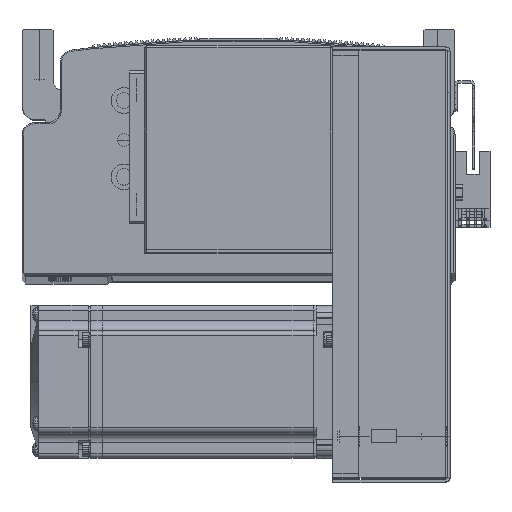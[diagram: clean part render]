
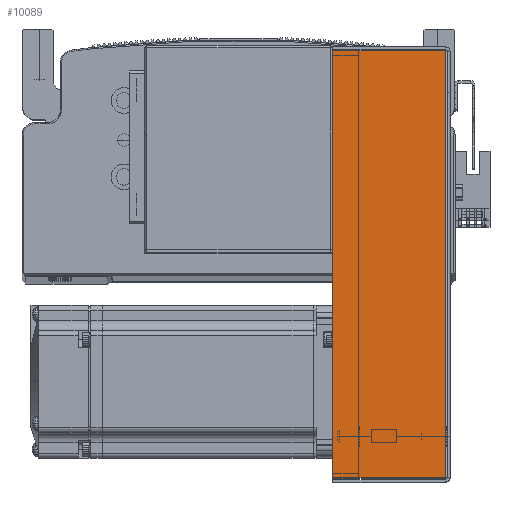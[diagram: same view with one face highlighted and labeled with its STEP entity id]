
A CAD part, top view. The second image highlights one B-rep face of the part: STEP entity #10089.
In plain terms, the highlighted planar face has unit normal (0, 0, 1) as drawn and (0, 0, -1) by its records, which use the part's own axes.
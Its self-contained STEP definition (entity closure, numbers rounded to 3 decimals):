
#205 = ORIENTED_EDGE ( 'NONE', *, *, #63465, .F. ) ;
#226 = ORIENTED_EDGE ( 'NONE', *, *, #63454, .T. ) ;
#246 = ORIENTED_EDGE ( 'NONE', *, *, #63444, .T. ) ;
#268 = ORIENTED_EDGE ( 'NONE', *, *, #63370, .F. ) ;
#10089 = ADVANCED_FACE ( 'NONE', ( #23767 ), #61753, .F. ) ;
#18009 = VERTEX_POINT ( 'NONE', #75542 ) ;
#18017 = VERTEX_POINT ( 'NONE', #75528 ) ;
#18031 = VERTEX_POINT ( 'NONE', #75551 ) ;
#18033 = VERTEX_POINT ( 'NONE', #75569 ) ;
#19051 = AXIS2_PLACEMENT_3D ( 'NONE', #61707, #61710, #61663 ) ;
#22307 = VECTOR ( 'NONE', #30702, 1000. ) ;
#22355 = LINE ( 'NONE', #30708, #22307 ) ;
#22368 = LINE ( 'NONE', #30871, #22381 ) ;
#22381 = VECTOR ( 'NONE', #30836, 1000. ) ;
#22390 = LINE ( 'NONE', #30855, #22415 ) ;
#22415 = VECTOR ( 'NONE', #30830, 1000. ) ;
#22427 = LINE ( 'NONE', #30894, #22451 ) ;
#22451 = VECTOR ( 'NONE', #30877, 1000. ) ;
#23767 = FACE_OUTER_BOUND ( 'NONE', #77974, .T. ) ;
#30702 = DIRECTION ( 'NONE',  ( 1., 0., 0. ) ) ;
#30708 = CARTESIAN_POINT ( 'NONE',  ( 0., 0.737, -40.5 ) ) ;
#30830 = DIRECTION ( 'NONE',  ( 1., 0., 0. ) ) ;
#30836 = DIRECTION ( 'NONE',  ( 0., 1., 0. ) ) ;
#30855 = CARTESIAN_POINT ( 'NONE',  ( 84.5, 45., -40.5 ) ) ;
#30871 = CARTESIAN_POINT ( 'NONE',  ( -83.793, 0., -40.5 ) ) ;
#30877 = DIRECTION ( 'NONE',  ( 0., 1., 0. ) ) ;
#30894 = CARTESIAN_POINT ( 'NONE',  ( 83.793, 0., -40.5 ) ) ;
#61663 = DIRECTION ( 'NONE',  ( 0., -1., 0. ) ) ;
#61707 = CARTESIAN_POINT ( 'NONE',  ( 0., 0., -40.5 ) ) ;
#61710 = DIRECTION ( 'NONE',  ( 0., 0., 1. ) ) ;
#61753 = PLANE ( 'NONE',  #19051 ) ;
#63370 = EDGE_CURVE ( 'NONE', #18031, #18009, #22355, .T. ) ;
#63444 = EDGE_CURVE ( 'NONE', #18033, #18017, #22390, .T. ) ;
#63454 = EDGE_CURVE ( 'NONE', #18031, #18033, #22368, .T. ) ;
#63465 = EDGE_CURVE ( 'NONE', #18009, #18017, #22427, .T. ) ;
#75528 = CARTESIAN_POINT ( 'NONE',  ( 83.793, 45., -40.5 ) ) ;
#75542 = CARTESIAN_POINT ( 'NONE',  ( 83.793, 0.737, -40.5 ) ) ;
#75551 = CARTESIAN_POINT ( 'NONE',  ( -83.793, 0.737, -40.5 ) ) ;
#75569 = CARTESIAN_POINT ( 'NONE',  ( -83.793, 45., -40.5 ) ) ;
#77974 = EDGE_LOOP ( 'NONE', ( #268, #226, #246, #205 ) ) ;
